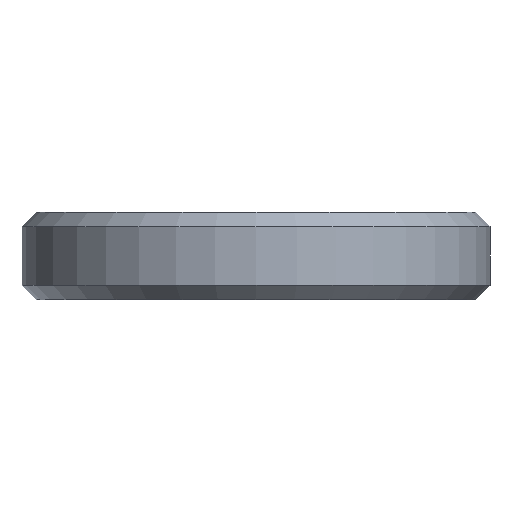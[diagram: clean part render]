
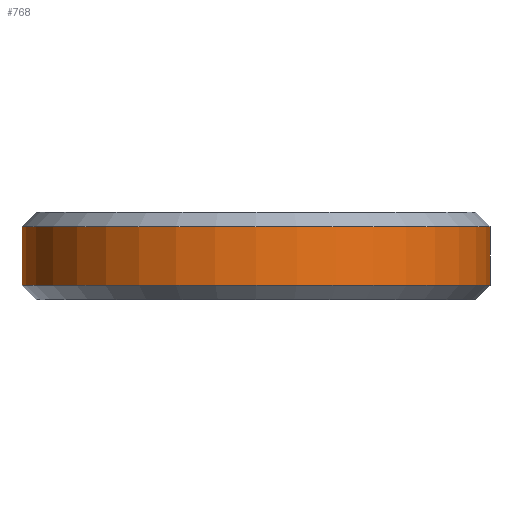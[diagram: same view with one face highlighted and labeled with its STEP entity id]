
A CAD part, front view. The second image highlights one B-rep face of the part: STEP entity #768.
In plain terms, the highlighted cylindrical face has radius 8 mm (diameter 16 mm), a partial arc.
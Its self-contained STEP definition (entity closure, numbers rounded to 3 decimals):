
#8 = CARTESIAN_POINT ( 'NONE',  ( 0., 0., 2.5 ) ) ;
#28 = ORIENTED_EDGE ( 'NONE', *, *, #149, .T. ) ;
#42 = CARTESIAN_POINT ( 'NONE',  ( 8., 0., 3. ) ) ;
#56 = VERTEX_POINT ( 'NONE', #797 ) ;
#61 = DIRECTION ( 'NONE',  ( 0., 0., -1. ) ) ;
#80 = DIRECTION ( 'NONE',  ( 0., 0., -1. ) ) ;
#84 = LINE ( 'NONE', #511, #673 ) ;
#85 = VECTOR ( 'NONE', #115, 1000. ) ;
#115 = DIRECTION ( 'NONE',  ( 0., 0., -1. ) ) ;
#146 = ORIENTED_EDGE ( 'NONE', *, *, #193, .T. ) ;
#149 = EDGE_CURVE ( 'NONE', #711, #56, #84, .T. ) ;
#193 = EDGE_CURVE ( 'NONE', #625, #711, #500, .T. ) ;
#203 = DIRECTION ( 'NONE',  ( -1., 0., 0. ) ) ;
#232 = AXIS2_PLACEMENT_3D ( 'NONE', #8, #80, #263 ) ;
#261 = CYLINDRICAL_SURFACE ( 'NONE', #553, 8. ) ;
#263 = DIRECTION ( 'NONE',  ( 1., 0., 0. ) ) ;
#275 = CARTESIAN_POINT ( 'NONE',  ( 0., 0., 0.5 ) ) ;
#297 = CARTESIAN_POINT ( 'NONE',  ( -8., 0., 2.5 ) ) ;
#301 = CIRCLE ( 'NONE', #619, 8. ) ;
#318 = CARTESIAN_POINT ( 'NONE',  ( 0., 0., 3. ) ) ;
#379 = DIRECTION ( 'NONE',  ( 0., 0., 1. ) ) ;
#387 = VERTEX_POINT ( 'NONE', #613 ) ;
#390 = ORIENTED_EDGE ( 'NONE', *, *, #652, .F. ) ;
#429 = CARTESIAN_POINT ( 'NONE',  ( 8., 0., 2.5 ) ) ;
#446 = EDGE_CURVE ( 'NONE', #56, #387, #301, .T. ) ;
#478 = EDGE_LOOP ( 'NONE', ( #390, #146, #28, #790 ) ) ;
#500 = CIRCLE ( 'NONE', #232, 8. ) ;
#511 = CARTESIAN_POINT ( 'NONE',  ( -8., 0., 3. ) ) ;
#553 = AXIS2_PLACEMENT_3D ( 'NONE', #318, #61, #203 ) ;
#568 = FACE_OUTER_BOUND ( 'NONE', #478, .T. ) ;
#594 = LINE ( 'NONE', #42, #85 ) ;
#613 = CARTESIAN_POINT ( 'NONE',  ( 8., 0., 0.5 ) ) ;
#619 = AXIS2_PLACEMENT_3D ( 'NONE', #275, #379, #776 ) ;
#625 = VERTEX_POINT ( 'NONE', #429 ) ;
#652 = EDGE_CURVE ( 'NONE', #625, #387, #594, .T. ) ;
#673 = VECTOR ( 'NONE', #699, 1000. ) ;
#699 = DIRECTION ( 'NONE',  ( 0., 0., -1. ) ) ;
#711 = VERTEX_POINT ( 'NONE', #297 ) ;
#768 = ADVANCED_FACE ( 'NONE', ( #568 ), #261, .T. ) ;
#776 = DIRECTION ( 'NONE',  ( 1., 0., 0. ) ) ;
#790 = ORIENTED_EDGE ( 'NONE', *, *, #446, .T. ) ;
#797 = CARTESIAN_POINT ( 'NONE',  ( -8., 0., 0.5 ) ) ;
